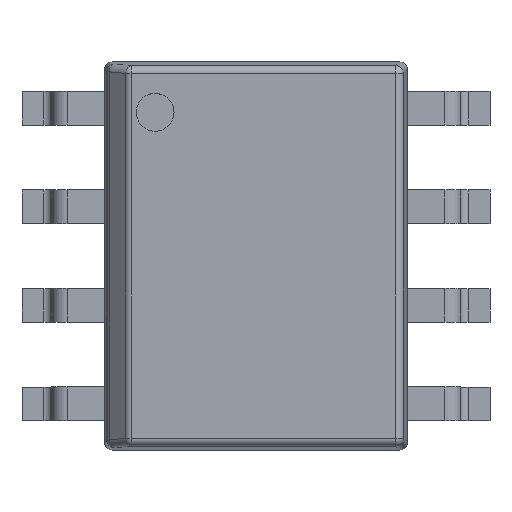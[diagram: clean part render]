
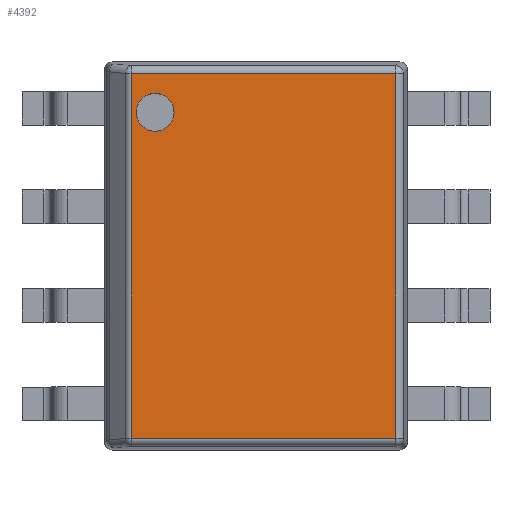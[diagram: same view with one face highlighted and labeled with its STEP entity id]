
A CAD part, top view. The second image highlights one B-rep face of the part: STEP entity #4392.
In plain terms, the highlighted planar face has unit normal (0, 0, 1).
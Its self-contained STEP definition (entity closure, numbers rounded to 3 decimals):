
#3433 = CYLINDRICAL_SURFACE('',#3434,0.1);
#3434 = AXIS2_PLACEMENT_3D('',#3435,#3436,#3437);
#3435 = CARTESIAN_POINT('',(0.3,0.15,1.34));
#3436 = DIRECTION('',(1.,0.,0.));
#3437 = DIRECTION('',(0.,-0.995,0.105));
#3582 = CYLINDRICAL_SURFACE('',#3583,0.1);
#3583 = AXIS2_PLACEMENT_3D('',#3584,#3585,#3586);
#3584 = CARTESIAN_POINT('',(0.3,4.85,1.34));
#3585 = DIRECTION('',(1.,0.,0.));
#3586 = DIRECTION('',(0.,0.995,0.105));
#3658 = CYLINDRICAL_SURFACE('',#3659,0.1);
#3659 = AXIS2_PLACEMENT_3D('',#3660,#3661,#3662);
#3660 = CARTESIAN_POINT('',(3.75,0.06,1.34));
#3661 = DIRECTION('',(0.,1.,0.));
#3662 = DIRECTION('',(0.995,0.,0.105));
#3962 = VERTEX_POINT('',#3963);
#3963 = CARTESIAN_POINT('',(0.341,0.15,1.44));
#4000 = EDGE_CURVE('',#3962,#4001,#4003,.T.);
#4001 = VERTEX_POINT('',#4002);
#4002 = CARTESIAN_POINT('',(3.75,0.15,1.44));
#4003 = SURFACE_CURVE('',#4004,(#4008,#4015),.PCURVE_S1.);
#4004 = LINE('',#4005,#4006);
#4005 = CARTESIAN_POINT('',(0.3,0.15,1.44));
#4006 = VECTOR('',#4007,1.);
#4007 = DIRECTION('',(1.,0.,0.));
#4008 = PCURVE('',#3433,#4009);
#4009 = DEFINITIONAL_REPRESENTATION('',(#4010),#4014);
#4010 = LINE('',#4011,#4012);
#4011 = CARTESIAN_POINT('',(-1.466,0.));
#4012 = VECTOR('',#4013,1.);
#4013 = DIRECTION('',(0.,1.));
#4014 = ( GEOMETRIC_REPRESENTATION_CONTEXT(2) 
PARAMETRIC_REPRESENTATION_CONTEXT() REPRESENTATION_CONTEXT('2D SPACE',''
  ) );
#4015 = PCURVE('',#4016,#4021);
#4016 = PLANE('',#4017);
#4017 = AXIS2_PLACEMENT_3D('',#4018,#4019,#4020);
#4018 = CARTESIAN_POINT('',(0.,0.,1.44));
#4019 = DIRECTION('',(0.,0.,1.));
#4020 = DIRECTION('',(1.,0.,0.));
#4021 = DEFINITIONAL_REPRESENTATION('',(#4022),#4026);
#4022 = LINE('',#4023,#4024);
#4023 = CARTESIAN_POINT('',(0.3,0.15));
#4024 = VECTOR('',#4025,1.);
#4025 = DIRECTION('',(1.,0.));
#4026 = ( GEOMETRIC_REPRESENTATION_CONTEXT(2) 
PARAMETRIC_REPRESENTATION_CONTEXT() REPRESENTATION_CONTEXT('2D SPACE',''
  ) );
#4164 = VERTEX_POINT('',#4165);
#4165 = CARTESIAN_POINT('',(0.341,4.85,1.44));
#4202 = EDGE_CURVE('',#4164,#4203,#4205,.T.);
#4203 = VERTEX_POINT('',#4204);
#4204 = CARTESIAN_POINT('',(3.75,4.85,1.44));
#4205 = SURFACE_CURVE('',#4206,(#4210,#4217),.PCURVE_S1.);
#4206 = LINE('',#4207,#4208);
#4207 = CARTESIAN_POINT('',(0.3,4.85,1.44));
#4208 = VECTOR('',#4209,1.);
#4209 = DIRECTION('',(1.,0.,0.));
#4210 = PCURVE('',#3582,#4211);
#4211 = DEFINITIONAL_REPRESENTATION('',(#4212),#4216);
#4212 = LINE('',#4213,#4214);
#4213 = CARTESIAN_POINT('',(1.466,0.));
#4214 = VECTOR('',#4215,1.);
#4215 = DIRECTION('',(0.,1.));
#4216 = ( GEOMETRIC_REPRESENTATION_CONTEXT(2) 
PARAMETRIC_REPRESENTATION_CONTEXT() REPRESENTATION_CONTEXT('2D SPACE',''
  ) );
#4217 = PCURVE('',#4016,#4218);
#4218 = DEFINITIONAL_REPRESENTATION('',(#4219),#4223);
#4219 = LINE('',#4220,#4221);
#4220 = CARTESIAN_POINT('',(0.3,4.85));
#4221 = VECTOR('',#4222,1.);
#4222 = DIRECTION('',(1.,0.));
#4223 = ( GEOMETRIC_REPRESENTATION_CONTEXT(2) 
PARAMETRIC_REPRESENTATION_CONTEXT() REPRESENTATION_CONTEXT('2D SPACE',''
  ) );
#4277 = EDGE_CURVE('',#4001,#4203,#4278,.T.);
#4278 = SURFACE_CURVE('',#4279,(#4283,#4290),.PCURVE_S1.);
#4279 = LINE('',#4280,#4281);
#4280 = CARTESIAN_POINT('',(3.75,0.06,1.44));
#4281 = VECTOR('',#4282,1.);
#4282 = DIRECTION('',(0.,1.,0.));
#4283 = PCURVE('',#3658,#4284);
#4284 = DEFINITIONAL_REPRESENTATION('',(#4285),#4289);
#4285 = LINE('',#4286,#4287);
#4286 = CARTESIAN_POINT('',(-1.466,0.));
#4287 = VECTOR('',#4288,1.);
#4288 = DIRECTION('',(0.,1.));
#4289 = ( GEOMETRIC_REPRESENTATION_CONTEXT(2) 
PARAMETRIC_REPRESENTATION_CONTEXT() REPRESENTATION_CONTEXT('2D SPACE',''
  ) );
#4290 = PCURVE('',#4016,#4291);
#4291 = DEFINITIONAL_REPRESENTATION('',(#4292),#4296);
#4292 = LINE('',#4293,#4294);
#4293 = CARTESIAN_POINT('',(3.75,0.06));
#4294 = VECTOR('',#4295,1.);
#4295 = DIRECTION('',(0.,1.));
#4296 = ( GEOMETRIC_REPRESENTATION_CONTEXT(2) 
PARAMETRIC_REPRESENTATION_CONTEXT() REPRESENTATION_CONTEXT('2D SPACE',''
  ) );
#4349 = CYLINDRICAL_SURFACE('',#4350,0.1);
#4350 = AXIS2_PLACEMENT_3D('',#4351,#4352,#4353);
#4351 = CARTESIAN_POINT('',(0.341,0.06,1.34));
#4352 = DIRECTION('',(0.,1.,0.));
#4353 = DIRECTION('',(-0.707,0.,0.707));
#4392 = ADVANCED_FACE('',(#4393,#4419),#4016,.T.);
#4393 = FACE_BOUND('',#4394,.T.);
#4394 = EDGE_LOOP('',(#4395,#4396,#4417,#4418));
#4395 = ORIENTED_EDGE('',*,*,#4202,.F.);
#4396 = ORIENTED_EDGE('',*,*,#4397,.F.);
#4397 = EDGE_CURVE('',#3962,#4164,#4398,.T.);
#4398 = SURFACE_CURVE('',#4399,(#4403,#4410),.PCURVE_S1.);
#4399 = LINE('',#4400,#4401);
#4400 = CARTESIAN_POINT('',(0.341,0.06,1.44));
#4401 = VECTOR('',#4402,1.);
#4402 = DIRECTION('',(0.,1.,0.));
#4403 = PCURVE('',#4016,#4404);
#4404 = DEFINITIONAL_REPRESENTATION('',(#4405),#4409);
#4405 = LINE('',#4406,#4407);
#4406 = CARTESIAN_POINT('',(0.341,0.06));
#4407 = VECTOR('',#4408,1.);
#4408 = DIRECTION('',(0.,1.));
#4409 = ( GEOMETRIC_REPRESENTATION_CONTEXT(2) 
PARAMETRIC_REPRESENTATION_CONTEXT() REPRESENTATION_CONTEXT('2D SPACE',''
  ) );
#4410 = PCURVE('',#4349,#4411);
#4411 = DEFINITIONAL_REPRESENTATION('',(#4412),#4416);
#4412 = LINE('',#4413,#4414);
#4413 = CARTESIAN_POINT('',(0.785,0.));
#4414 = VECTOR('',#4415,1.);
#4415 = DIRECTION('',(0.,1.));
#4416 = ( GEOMETRIC_REPRESENTATION_CONTEXT(2) 
PARAMETRIC_REPRESENTATION_CONTEXT() REPRESENTATION_CONTEXT('2D SPACE',''
  ) );
#4417 = ORIENTED_EDGE('',*,*,#4000,.T.);
#4418 = ORIENTED_EDGE('',*,*,#4277,.T.);
#4419 = FACE_BOUND('',#4420,.T.);
#4420 = EDGE_LOOP('',(#4421));
#4421 = ORIENTED_EDGE('',*,*,#4422,.F.);
#4422 = EDGE_CURVE('',#4423,#4423,#4425,.T.);
#4423 = VERTEX_POINT('',#4424);
#4424 = CARTESIAN_POINT('',(0.894,4.35,1.44));
#4425 = SURFACE_CURVE('',#4426,(#4431,#4438),.PCURVE_S1.);
#4426 = CIRCLE('',#4427,0.244);
#4427 = AXIS2_PLACEMENT_3D('',#4428,#4429,#4430);
#4428 = CARTESIAN_POINT('',(0.65,4.35,1.44));
#4429 = DIRECTION('',(0.,0.,1.));
#4430 = DIRECTION('',(1.,0.,0.));
#4431 = PCURVE('',#4016,#4432);
#4432 = DEFINITIONAL_REPRESENTATION('',(#4433),#4437);
#4433 = CIRCLE('',#4434,0.244);
#4434 = AXIS2_PLACEMENT_2D('',#4435,#4436);
#4435 = CARTESIAN_POINT('',(0.65,4.35));
#4436 = DIRECTION('',(1.,0.));
#4437 = ( GEOMETRIC_REPRESENTATION_CONTEXT(2) 
PARAMETRIC_REPRESENTATION_CONTEXT() REPRESENTATION_CONTEXT('2D SPACE',''
  ) );
#4438 = PCURVE('',#4439,#4444);
#4439 = CYLINDRICAL_SURFACE('',#4440,0.244);
#4440 = AXIS2_PLACEMENT_3D('',#4441,#4442,#4443);
#4441 = CARTESIAN_POINT('',(0.65,4.35,1.34));
#4442 = DIRECTION('',(0.,0.,1.));
#4443 = DIRECTION('',(1.,0.,0.));
#4444 = DEFINITIONAL_REPRESENTATION('',(#4445),#4449);
#4445 = LINE('',#4446,#4447);
#4446 = CARTESIAN_POINT('',(0.,0.1));
#4447 = VECTOR('',#4448,1.);
#4448 = DIRECTION('',(1.,0.));
#4449 = ( GEOMETRIC_REPRESENTATION_CONTEXT(2) 
PARAMETRIC_REPRESENTATION_CONTEXT() REPRESENTATION_CONTEXT('2D SPACE',''
  ) );
